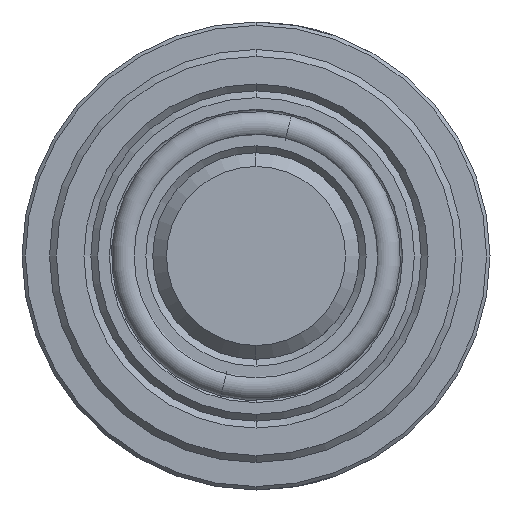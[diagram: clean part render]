
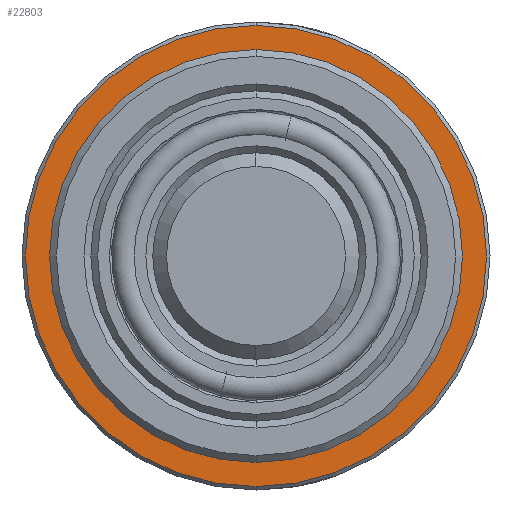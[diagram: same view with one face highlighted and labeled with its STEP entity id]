
A CAD part, front view. The second image highlights one B-rep face of the part: STEP entity #22803.
In plain terms, the highlighted planar face has unit normal (0, -1, 0).
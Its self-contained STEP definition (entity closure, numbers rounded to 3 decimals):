
#6 = CIRCLE ( 'NONE', #11109, 14.8 ) ;
#352 = VERTEX_POINT ( 'NONE', #15409 ) ;
#714 = EDGE_CURVE ( 'NONE', #13030, #19809, #15029, .T. ) ;
#797 = DIRECTION ( 'NONE',  ( 0., 0., -1. ) ) ;
#1135 = PLANE ( 'NONE',  #14581 ) ;
#1141 = CARTESIAN_POINT ( 'NONE',  ( 0., 20., 0. ) ) ;
#1373 = DIRECTION ( 'NONE',  ( 0., 0., 1. ) ) ;
#1473 = ORIENTED_EDGE ( 'NONE', *, *, #15038, .T. ) ;
#1923 = EDGE_LOOP ( 'NONE', ( #4592, #1473 ) ) ;
#2823 = DIRECTION ( 'NONE',  ( 0., -1., 0. ) ) ;
#2911 = DIRECTION ( 'NONE',  ( 0., 1., 0. ) ) ;
#2938 = CIRCLE ( 'NONE', #20582, 16.75 ) ;
#3816 = CARTESIAN_POINT ( 'NONE',  ( 0., 20., 0. ) ) ;
#4231 = EDGE_LOOP ( 'NONE', ( #10874, #21841 ) ) ;
#4471 = CARTESIAN_POINT ( 'NONE',  ( 0., 20., 0. ) ) ;
#4592 = ORIENTED_EDGE ( 'NONE', *, *, #714, .T. ) ;
#5882 = VERTEX_POINT ( 'NONE', #11253 ) ;
#6067 = CIRCLE ( 'NONE', #8796, 16.75 ) ;
#6471 = FACE_OUTER_BOUND ( 'NONE', #4231, .T. ) ;
#6924 = DIRECTION ( 'NONE',  ( 0., 0., 1. ) ) ;
#8796 = AXIS2_PLACEMENT_3D ( 'NONE', #3816, #9624, #13575 ) ;
#9575 = EDGE_CURVE ( 'NONE', #352, #5882, #2938, .T. ) ;
#9624 = DIRECTION ( 'NONE',  ( 0., 1., 0. ) ) ;
#10123 = DIRECTION ( 'NONE',  ( 0., 1., 0. ) ) ;
#10874 = ORIENTED_EDGE ( 'NONE', *, *, #9575, .F. ) ;
#11109 = AXIS2_PLACEMENT_3D ( 'NONE', #4471, #10123, #19729 ) ;
#11253 = CARTESIAN_POINT ( 'NONE',  ( 0., 20., -16.75 ) ) ;
#11754 = EDGE_CURVE ( 'NONE', #5882, #352, #6067, .T. ) ;
#12906 = DIRECTION ( 'NONE',  ( 0., 1., 0. ) ) ;
#13030 = VERTEX_POINT ( 'NONE', #22061 ) ;
#13068 = CARTESIAN_POINT ( 'NONE',  ( 0., 20., 0. ) ) ;
#13575 = DIRECTION ( 'NONE',  ( 0., 0., 1. ) ) ;
#14581 = AXIS2_PLACEMENT_3D ( 'NONE', #23838, #2823, #797 ) ;
#15029 = CIRCLE ( 'NONE', #20106, 14.8 ) ;
#15038 = EDGE_CURVE ( 'NONE', #19809, #13030, #6, .T. ) ;
#15409 = CARTESIAN_POINT ( 'NONE',  ( 0., 20., 16.75 ) ) ;
#17422 = CARTESIAN_POINT ( 'NONE',  ( 0., 20., -14.8 ) ) ;
#19729 = DIRECTION ( 'NONE',  ( 0., 0., 1. ) ) ;
#19809 = VERTEX_POINT ( 'NONE', #17422 ) ;
#20106 = AXIS2_PLACEMENT_3D ( 'NONE', #13068, #12906, #1373 ) ;
#20582 = AXIS2_PLACEMENT_3D ( 'NONE', #1141, #2911, #6924 ) ;
#21841 = ORIENTED_EDGE ( 'NONE', *, *, #11754, .F. ) ;
#22061 = CARTESIAN_POINT ( 'NONE',  ( 0., 20., 14.8 ) ) ;
#22677 = FACE_BOUND ( 'NONE', #1923, .T. ) ;
#22803 = ADVANCED_FACE ( 'NONE', ( #22677, #6471 ), #1135, .T. ) ;
#23838 = CARTESIAN_POINT ( 'NONE',  ( -14.8, 20., 0. ) ) ;
